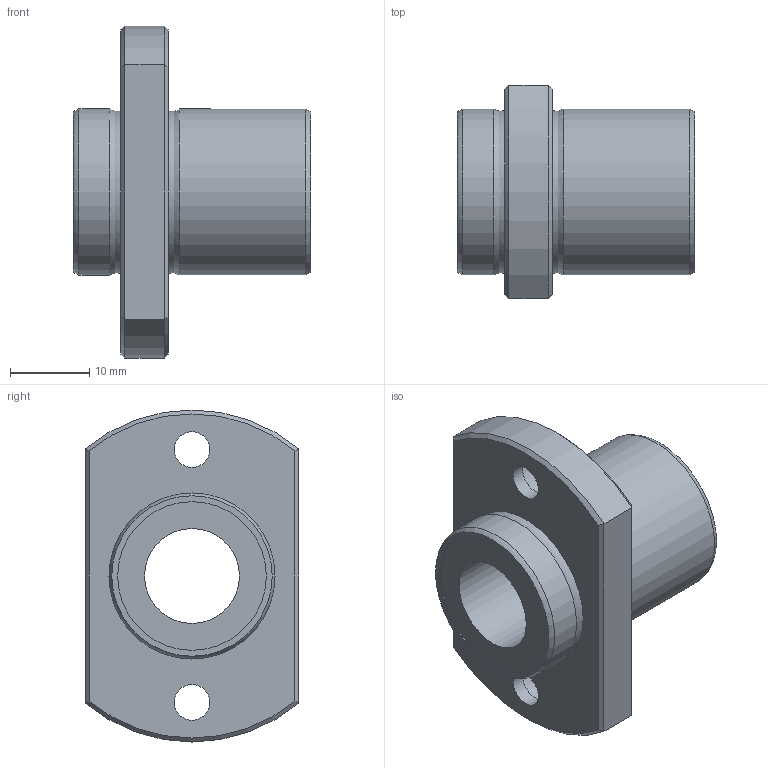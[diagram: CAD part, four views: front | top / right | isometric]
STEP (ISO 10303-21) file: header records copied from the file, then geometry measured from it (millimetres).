
FILE_DESCRIPTION((''),'2;1');
FILE_NAME('D:\製品 (図面)\カタログ用3D\リニアベアリング関連\STEP形式\LFTB\LFTB12.stp','2010-06-04T09:23:05',('Tsuchiya'),(''),'Autodesk Inventor 10','Autodesk Inventor 10','');
FILE_SCHEMA(('AUTOMOTIVE_DESIGN { 1 0 10303 214 1 1 1 1 }'));
Length unit declared in the file: millimetre
Products named in the file (1): LFTB12
Bounding box: 30 x 27 x 42 mm (x, y, z)
Volume: 10614.9 mm3; surface area: 5456.3 mm2
Topology: 1 solids, 1 shells, 33 faces, 63 edges, 38 vertices
Faces by surface type: plane 12, bspline 8, cylinder 7, cone 4, torus 2
Full cylindrical faces by diameter (mm): 12 x1, 18.8 x2, 21 x2
Entity records: 977 total; most frequent: CARTESIAN_POINT 344, DIRECTION 124, ORIENTED_EDGE 100, EDGE_LOOP 58, AXIS2_PLACEMENT_3D 56, EDGE_CURVE 50, VERTEX_POINT 38, FACE_OUTER_BOUND 33
